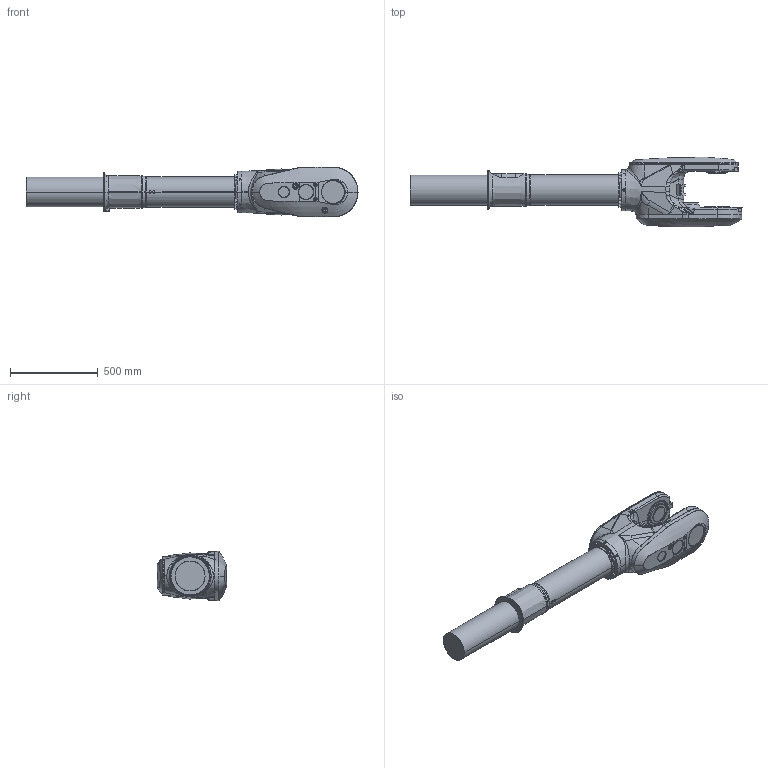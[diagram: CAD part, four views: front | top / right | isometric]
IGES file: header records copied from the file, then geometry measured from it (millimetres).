
Start section: SolidWorks IGES file using analytic representation for surfaces
Global section: file name: C:\Data\SAP_DOC\IRB6740_lightweight\6740\IRB6740-MH3_240kg-320_OC_01_SW_J\IRB6740-MH3_240kg-320_OC_01_IGES_J\IRB6740-MH3_240kg-320_OC_00_LINK04_CAD.igs; native system: SolidWorks 2024; preprocessor: SolidWorks 2024; author: SEJAOLS6; date: 260513.071619; units: millimetre
Bounding box: 1887.5 x 396.47 x 284 mm (x, y, z)
Surface area: 1601506.4 mm2 (no closed solid volume)
Topology: 0 solids, 0 shells, 727 faces, 13260 edges, 13235 vertices
Faces by surface type: bspline 432, revolution 295
